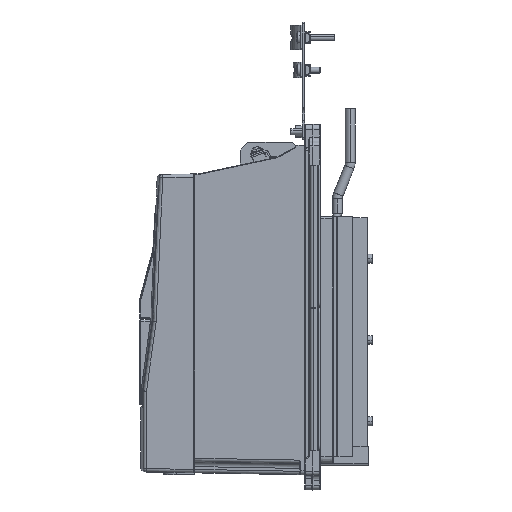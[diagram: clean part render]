
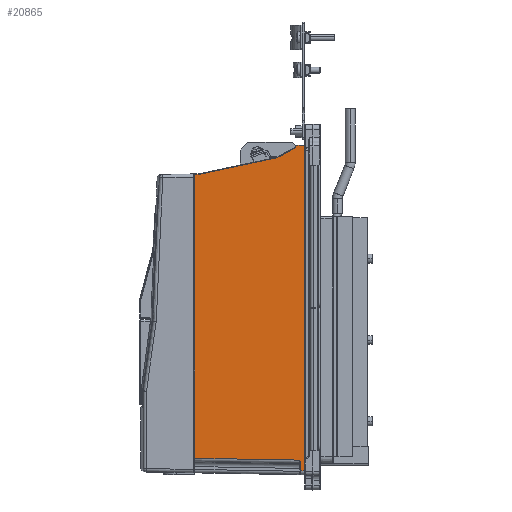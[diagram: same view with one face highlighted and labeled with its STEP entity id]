
A CAD part, left-side view. The second image highlights one B-rep face of the part: STEP entity #20865.
In plain terms, the highlighted planar face has unit normal (-1, 0.018, 0).
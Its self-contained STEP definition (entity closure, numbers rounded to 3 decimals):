
#1285 = VECTOR ( 'NONE', #119502, 1000. ) ;
#3008 = DIRECTION ( 'NONE',  ( 0.018, 0.978, -0.208 ) ) ;
#6143 = LINE ( 'NONE', #64135, #72921 ) ;
#6850 = CARTESIAN_POINT ( 'NONE',  ( -110.747, -49.991, -157.379 ) ) ;
#7192 = AXIS2_PLACEMENT_3D ( 'NONE', #80731, #124040, #38829 ) ;
#7593 = VECTOR ( 'NONE', #60210, 1000. ) ;
#8399 = CARTESIAN_POINT ( 'NONE',  ( -110.649, -44.491, 163.917 ) ) ;
#8960 = CARTESIAN_POINT ( 'NONE',  ( -110.743, -49.76, -156.465 ) ) ;
#12212 = EDGE_CURVE ( 'NONE', #115483, #17602, #12459, .T. ) ;
#12459 = LINE ( 'NONE', #74967, #122870 ) ;
#17602 = VERTEX_POINT ( 'NONE', #136131 ) ;
#19280 = CARTESIAN_POINT ( 'NONE',  ( -108.891, 53.455, 136.607 ) ) ;
#20865 = ADVANCED_FACE ( 'NONE', ( #102012 ), #92793, .F. ) ;
#22440 = DIRECTION ( 'NONE',  ( 0., 0., -1. ) ) ;
#23379 = DIRECTION ( 'NONE',  ( -0.018, -1., -0.017 ) ) ;
#24008 = CARTESIAN_POINT ( 'NONE',  ( -110.654, -44.808, 164.1 ) ) ;
#25760 = ORIENTED_EDGE ( 'NONE', *, *, #56747, .T. ) ;
#27427 = EDGE_CURVE ( 'NONE', #98409, #48107, #116897, .T. ) ;
#28920 = VERTEX_POINT ( 'NONE', #128235 ) ;
#30167 = CARTESIAN_POINT ( 'NONE',  ( -108.809, 58.009, 136.509 ) ) ;
#32801 = DIRECTION ( 'NONE',  ( 0.018, 1., -0.017 ) ) ;
#34000 = LINE ( 'NONE', #131947, #133065 ) ;
#35757 = LINE ( 'NONE', #110995, #111680 ) ;
#37132 = CARTESIAN_POINT ( 'NONE',  ( -110.33, -26.746, 153.671 ) ) ;
#37821 = CARTESIAN_POINT ( 'NONE',  ( -110.332, -26.837, 153.723 ) ) ;
#38137 =( BOUNDED_CURVE ( )  B_SPLINE_CURVE ( 3, ( #91092, #123035, #37132, #37821 ),
 .UNSPECIFIED., .F., .T. ) 
 B_SPLINE_CURVE_WITH_KNOTS ( ( 4, 4 ),
 ( 4.398, 4.712 ),
 .UNSPECIFIED. ) 
 CURVE ( )  GEOMETRIC_REPRESENTATION_ITEM ( )  RATIONAL_B_SPLINE_CURVE ( ( 1., 0.992, 0.992, 1. ) ) 
 REPRESENTATION_ITEM ( '' )  );
#38150 = VERTEX_POINT ( 'NONE', #62335 ) ;
#38829 = DIRECTION ( 'NONE',  ( 0.018, 1., 0. ) ) ;
#39198 = ORIENTED_EDGE ( 'NONE', *, *, #81215, .T. ) ;
#40223 = CARTESIAN_POINT ( 'NONE',  ( -110.73, -49.009, -154.992 ) ) ;
#40504 = LINE ( 'NONE', #61814, #122664 ) ;
#40563 = CARTESIAN_POINT ( 'NONE',  ( -110.332, -26.837, 153.723 ) ) ;
#44269 = CARTESIAN_POINT ( 'NONE',  ( -110.658, -44.991, 170. ) ) ;
#47006 = CARTESIAN_POINT ( 'NONE',  ( -110.747, -49.991, -165.929 ) ) ;
#48107 = VERTEX_POINT ( 'NONE', #84728 ) ;
#48998 = ORIENTED_EDGE ( 'NONE', *, *, #92043, .F. ) ;
#49479 = CARTESIAN_POINT ( 'NONE',  ( -110.745, -49.84, -156.69 ) ) ;
#49658 = VERTEX_POINT ( 'NONE', #81236 ) ;
#50237 = VERTEX_POINT ( 'NONE', #65200 ) ;
#52130 = ORIENTED_EDGE ( 'NONE', *, *, #68437, .T. ) ;
#53878 =( BOUNDED_CURVE ( )  B_SPLINE_CURVE ( 3, ( #131878, #24008, #97859, #129815 ),
 .UNSPECIFIED., .F., .F. ) 
 B_SPLINE_CURVE_WITH_KNOTS ( ( 4, 4 ),
 ( 4.712, 5.76 ),
 .UNSPECIFIED. ) 
 CURVE ( )  GEOMETRIC_REPRESENTATION_ITEM ( )  RATIONAL_B_SPLINE_CURVE ( ( 1., 0.911, 0.911, 1. ) ) 
 REPRESENTATION_ITEM ( '' )  );
#55886 = VERTEX_POINT ( 'NONE', #30167 ) ;
#56747 = EDGE_CURVE ( 'NONE', #111556, #17602, #125520, .T. ) ;
#57506 = EDGE_CURVE ( 'NONE', #71688, #92151, #40504, .T. ) ;
#58415 = CARTESIAN_POINT ( 'NONE',  ( -108.891, 53.455, 136.607 ) ) ;
#59227 = ORIENTED_EDGE ( 'NONE', *, *, #126518, .T. ) ;
#59832 = CARTESIAN_POINT ( 'NONE',  ( -108.889, 53.518, 136.593 ) ) ;
#60108 = DIRECTION ( 'NONE',  ( 0.018, 1., 0. ) ) ;
#60210 = DIRECTION ( 'NONE',  ( -0.018, -1., -0.018 ) ) ;
#61033 = ORIENTED_EDGE ( 'NONE', *, *, #12212, .F. ) ;
#61814 = CARTESIAN_POINT ( 'NONE',  ( -110.33, -26.763, 153.681 ) ) ;
#62335 = CARTESIAN_POINT ( 'NONE',  ( -108.887, 53.646, 136.585 ) ) ;
#62561 = EDGE_CURVE ( 'NONE', #50237, #92151, #38137, .T. ) ;
#62569 = EDGE_CURVE ( 'NONE', #38150, #140069, #139720, .T. ) ;
#63094 = LINE ( 'NONE', #93672, #75745 ) ;
#64135 = CARTESIAN_POINT ( 'NONE',  ( -108.8, 58.5, 166. ) ) ;
#65200 = CARTESIAN_POINT ( 'NONE',  ( -110.326, -26.545, 153.611 ) ) ;
#68437 = EDGE_CURVE ( 'NONE', #38150, #55886, #74681, .T. ) ;
#71688 = VERTEX_POINT ( 'NONE', #8399 ) ;
#72045 = ORIENTED_EDGE ( 'NONE', *, *, #96886, .T. ) ;
#72921 = VECTOR ( 'NONE', #60108, 1000. ) ;
#74030 = EDGE_CURVE ( 'NONE', #115483, #98409, #6143, .T. ) ;
#74681 = LINE ( 'NONE', #86755, #101716 ) ;
#74967 = CARTESIAN_POINT ( 'NONE',  ( -110.819, -54., 170. ) ) ;
#75745 = VECTOR ( 'NONE', #137623, 1000. ) ;
#76662 = ORIENTED_EDGE ( 'NONE', *, *, #27427, .T. ) ;
#78238 = LINE ( 'NONE', #120867, #124115 ) ;
#79655 = VERTEX_POINT ( 'NONE', #105232 ) ;
#79806 = ORIENTED_EDGE ( 'NONE', *, *, #57506, .T. ) ;
#80731 = CARTESIAN_POINT ( 'NONE',  ( -108.8, 58.5, 170. ) ) ;
#81215 = EDGE_CURVE ( 'NONE', #28920, #79655, #34000, .T. ) ;
#81236 = CARTESIAN_POINT ( 'NONE',  ( -110.747, -49.991, -157.617 ) ) ;
#84728 = CARTESIAN_POINT ( 'NONE',  ( -110.658, -44.991, 164.784 ) ) ;
#86755 = CARTESIAN_POINT ( 'NONE',  ( -108.81, 57.916, 136.51 ) ) ;
#90424 = DIRECTION ( 'NONE',  ( 0., 0., -1. ) ) ;
#90768 = EDGE_CURVE ( 'NONE', #49658, #111556, #63094, .T. ) ;
#91092 = CARTESIAN_POINT ( 'NONE',  ( -110.326, -26.545, 153.611 ) ) ;
#91812 = CARTESIAN_POINT ( 'NONE',  ( -108.887, 53.646, 136.585 ) ) ;
#92043 = EDGE_CURVE ( 'NONE', #71688, #48107, #53878, .T. ) ;
#92151 = VERTEX_POINT ( 'NONE', #40563 ) ;
#92793 = PLANE ( 'NONE',  #7192 ) ;
#93672 = CARTESIAN_POINT ( 'NONE',  ( -110.747, -49.991, -165.921 ) ) ;
#96886 = EDGE_CURVE ( 'NONE', #55886, #28920, #35757, .T. ) ;
#97859 = CARTESIAN_POINT ( 'NONE',  ( -110.658, -44.991, 164.418 ) ) ;
#98409 = VERTEX_POINT ( 'NONE', #102041 ) ;
#101706 = CARTESIAN_POINT ( 'NONE',  ( -108.888, 53.582, 136.586 ) ) ;
#101716 = VECTOR ( 'NONE', #32801, 1000. ) ;
#102012 = FACE_OUTER_BOUND ( 'NONE', #113778, .T. ) ;
#102041 = CARTESIAN_POINT ( 'NONE',  ( -110.658, -44.991, 166. ) ) ;
#104116 = CARTESIAN_POINT ( 'NONE',  ( -110.747, -49.956, -157.147 ) ) ;
#104802 = CARTESIAN_POINT ( 'NONE',  ( -110.819, -54., 166. ) ) ;
#105232 = CARTESIAN_POINT ( 'NONE',  ( -110.73, -49.009, -154.992 ) ) ;
#106213 = CARTESIAN_POINT ( 'NONE',  ( -110.734, -49.246, -155.402 ) ) ;
#108849 = ORIENTED_EDGE ( 'NONE', *, *, #62569, .F. ) ;
#110995 = CARTESIAN_POINT ( 'NONE',  ( -108.809, 58.009, 170. ) ) ;
#111245 = B_SPLINE_CURVE_WITH_KNOTS ( 'NONE', 3,
 ( #40223, #106213, #126138, #8960, #49479, #104116, #6850, #124718 ),
 .UNSPECIFIED., .F., .F.,
 ( 4, 2, 2, 4 ),
 ( 0., 0.001, 0.002, 0.003 ),
 .UNSPECIFIED. ) ;
#111408 = ORIENTED_EDGE ( 'NONE', *, *, #138591, .T. ) ;
#111556 = VERTEX_POINT ( 'NONE', #47006 ) ;
#111680 = VECTOR ( 'NONE', #90424, 1000. ) ;
#113778 = EDGE_LOOP ( 'NONE', ( #61033, #133374, #76662, #48998, #79806, #130371, #59227, #108849, #52130, #72045, #39198, #111408, #135761, #25760 ) ) ;
#115483 = VERTEX_POINT ( 'NONE', #104802 ) ;
#116275 = CARTESIAN_POINT ( 'NONE',  ( -108.693, 64.434, -163.895 ) ) ;
#116897 = LINE ( 'NONE', #44269, #1285 ) ;
#119502 = DIRECTION ( 'NONE',  ( 0., 0., -1. ) ) ;
#120867 = CARTESIAN_POINT ( 'NONE',  ( -108.926, 51.493, 137.024 ) ) ;
#122664 = VECTOR ( 'NONE', #128520, 1000. ) ;
#122870 = VECTOR ( 'NONE', #22440, 1000. ) ;
#123035 = CARTESIAN_POINT ( 'NONE',  ( -110.328, -26.648, 153.633 ) ) ;
#124040 = DIRECTION ( 'NONE',  ( 1., -0.018, 0. ) ) ;
#124115 = VECTOR ( 'NONE', #3008, 1000. ) ;
#124718 = CARTESIAN_POINT ( 'NONE',  ( -110.747, -49.991, -157.617 ) ) ;
#125520 = LINE ( 'NONE', #116275, #7593 ) ;
#126138 = CARTESIAN_POINT ( 'NONE',  ( -110.738, -49.482, -155.814 ) ) ;
#126518 = EDGE_CURVE ( 'NONE', #50237, #140069, #78238, .T. ) ;
#128235 = CARTESIAN_POINT ( 'NONE',  ( -108.809, 58.009, -153.124 ) ) ;
#128520 = DIRECTION ( 'NONE',  ( 0.016, 0.866, -0.5 ) ) ;
#129815 = CARTESIAN_POINT ( 'NONE',  ( -110.658, -44.991, 164.784 ) ) ;
#130371 = ORIENTED_EDGE ( 'NONE', *, *, #62561, .F. ) ;
#131878 = CARTESIAN_POINT ( 'NONE',  ( -110.649, -44.491, 163.917 ) ) ;
#131947 = CARTESIAN_POINT ( 'NONE',  ( -108.699, 64.136, -153.017 ) ) ;
#133065 = VECTOR ( 'NONE', #23379, 1000. ) ;
#133374 = ORIENTED_EDGE ( 'NONE', *, *, #74030, .T. ) ;
#135761 = ORIENTED_EDGE ( 'NONE', *, *, #90768, .T. ) ;
#136131 = CARTESIAN_POINT ( 'NONE',  ( -110.819, -54., -166.001 ) ) ;
#137623 = DIRECTION ( 'NONE',  ( 0., 0., -1. ) ) ;
#138591 = EDGE_CURVE ( 'NONE', #79655, #49658, #111245, .T. ) ;
#139720 =( BOUNDED_CURVE ( )  B_SPLINE_CURVE ( 3, ( #91812, #101706, #59832, #58415 ),
 .UNSPECIFIED., .F., .T. ) 
 B_SPLINE_CURVE_WITH_KNOTS ( ( 4, 4 ),
 ( 1.588, 1.78 ),
 .UNSPECIFIED. ) 
 CURVE ( )  GEOMETRIC_REPRESENTATION_ITEM ( )  RATIONAL_B_SPLINE_CURVE ( ( 1., 0.997, 0.997, 1. ) ) 
 REPRESENTATION_ITEM ( '' )  );
#140069 = VERTEX_POINT ( 'NONE', #19280 ) ;
